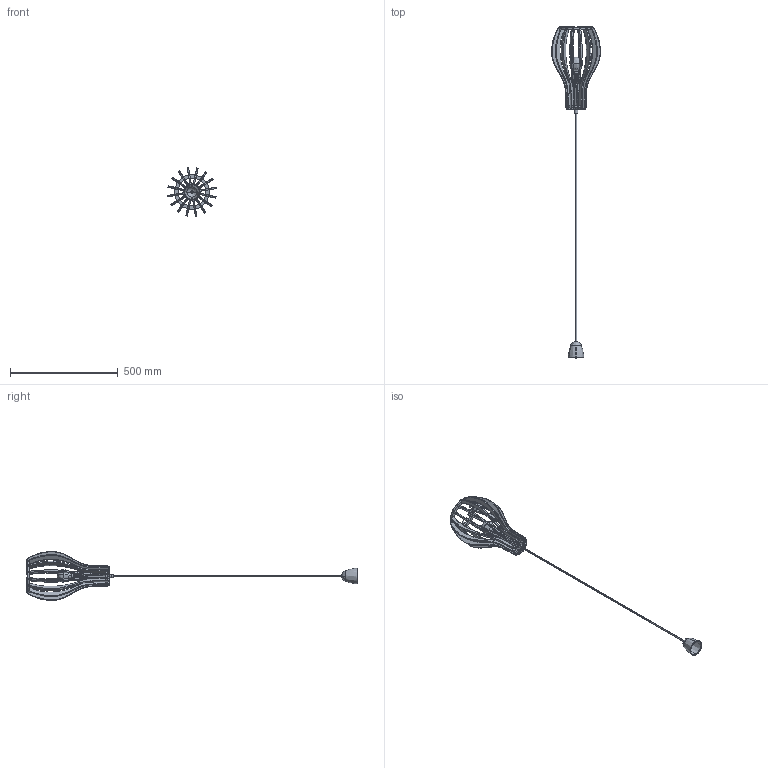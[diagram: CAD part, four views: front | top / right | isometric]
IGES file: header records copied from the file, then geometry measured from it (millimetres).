
Start section: SolidWorks IGES file using analytic representation for surfaces
Global section: file name: Z:\Modele 3D_WWW\_KOLEKCJE_WWW\IKA\IKA-A-4171\IKA-A-4171.IGS; native system: SolidWorks 2020; preprocessor: SolidWorks 2020; author: gabriela.tworek; date: 210323.211606; units: millimetre
Bounding box: 228.06 x 1543.43 x 228.06 mm (x, y, z)
Surface area: 474595.3 mm2 (no closed solid volume)
Topology: 0 solids, 0 shells, 518 faces, 8981 edges, 8961 vertices
Faces by surface type: bspline 323, revolution 195
